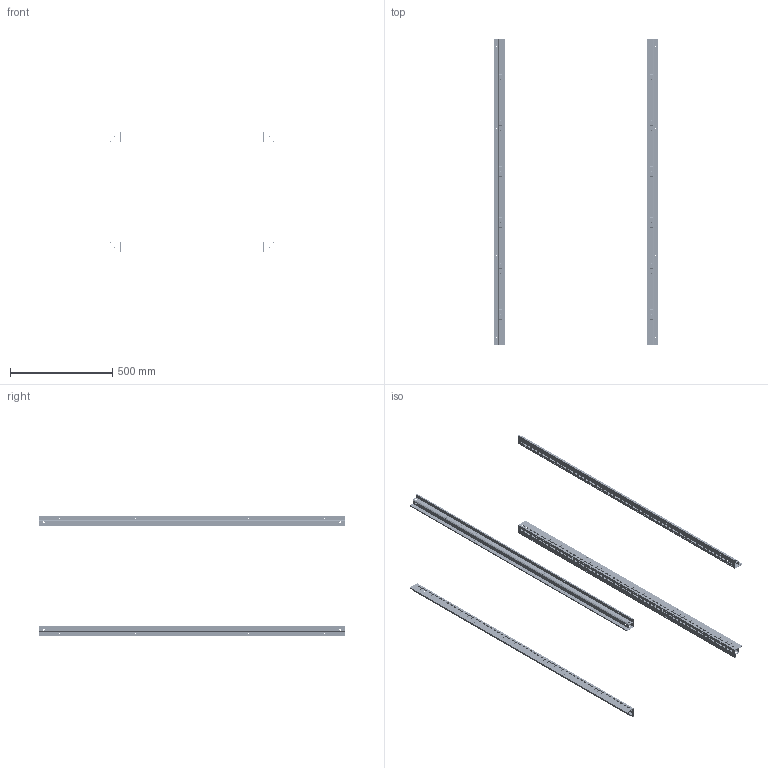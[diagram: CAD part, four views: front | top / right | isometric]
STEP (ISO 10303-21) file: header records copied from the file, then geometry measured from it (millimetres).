
FILE_DESCRIPTION(('Open CASCADE Model'),'2;1');
FILE_NAME('Open CASCADE Shape Model','2025-01-27T17:01:45',('Author'),( 'Open CASCADE'),'Open CASCADE STEP processor 7.8','Open CASCADE 7.8' ,'Unknown');
FILE_SCHEMA(('AUTOMOTIVE_DESIGN { 1 0 10303 214 1 1 1 1 }'));
Length unit declared in the file: millimetre
Products named in the file (2): Compound1; Solid1
Assembly tree (4 placements, depth 2):
  Compound1
    Solid1  x4
Bounding box: 799.4 x 1499 x 585.4 mm (x, y, z)
Volume: 1454545.5 mm3; surface area: 2222682.3 mm2
Topology: 4 solids, 4 shells, 9508 faces, 28152 edges, 18768 vertices
Faces by surface type: cylinder 5752, plane 3756
Full cylindrical faces by diameter (mm): 4.25 x952, 7 x32, 10 x16, 11 x32
Entity records: 82164 total; most frequent: DIRECTION 14678, CARTESIAN_POINT 14112, ORIENTED_EDGE 14076, EDGE_CURVE 7038, AXIS2_PLACEMENT_3D 5258, VERTEX_POINT 4692, LINE 4162, VECTOR 4162
